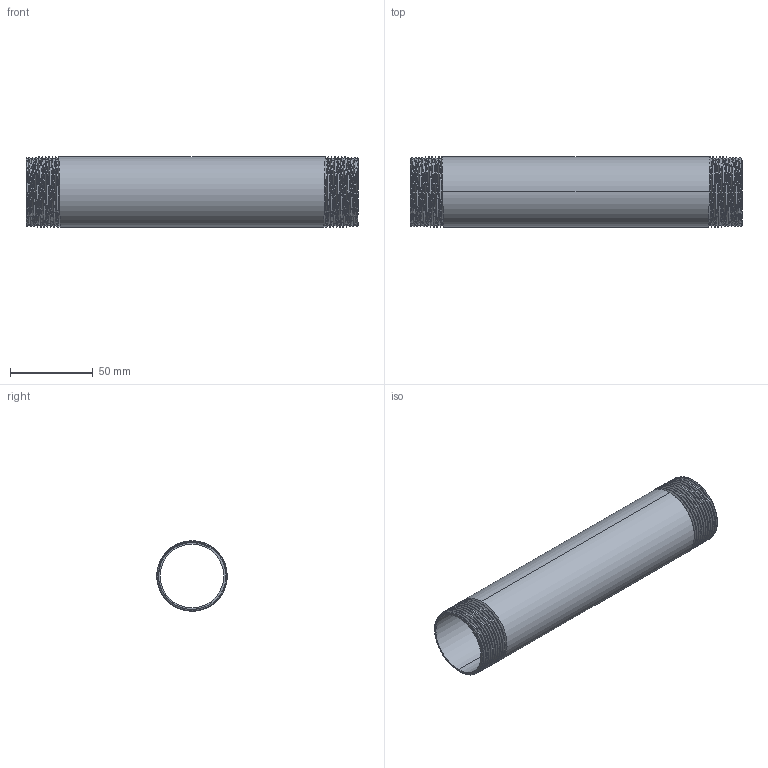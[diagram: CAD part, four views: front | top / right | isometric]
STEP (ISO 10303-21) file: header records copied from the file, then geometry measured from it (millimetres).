
FILE_DESCRIPTION (( 'STEP AP203' ), '1' );
FILE_NAME ('3D_R210_1 1-4x200_17185903.STEP', '2024-08-16T13:57:33', ( '' ), ( '' ), 'SwSTEP 2.0', 'SolidWorks 2024', '' );
FILE_SCHEMA (( 'CONFIG_CONTROL_DESIGN' ));
Length unit declared in the file: millimetre
Products named in the file (1): 3D_R210_1 1-4x200_17185903
Bounding box: 200 x 42.35 x 42.4 mm (x, y, z)
Volume: 47545.2 mm3; surface area: 53875.4 mm2
Topology: 1 solids, 1 shells, 56 faces, 156 edges, 102 vertices
Faces by surface type: cone 42, bspline 6, cylinder 4, plane 4
Entity records: 9727 total; most frequent: CARTESIAN_POINT 8423, ORIENTED_EDGE 312, DIRECTION 172, EDGE_CURVE 156, VERTEX_POINT 102, B_SPLINE_CURVE_WITH_KNOTS 88, AXIS2_PLACEMENT_3D 61, EDGE_LOOP 58
